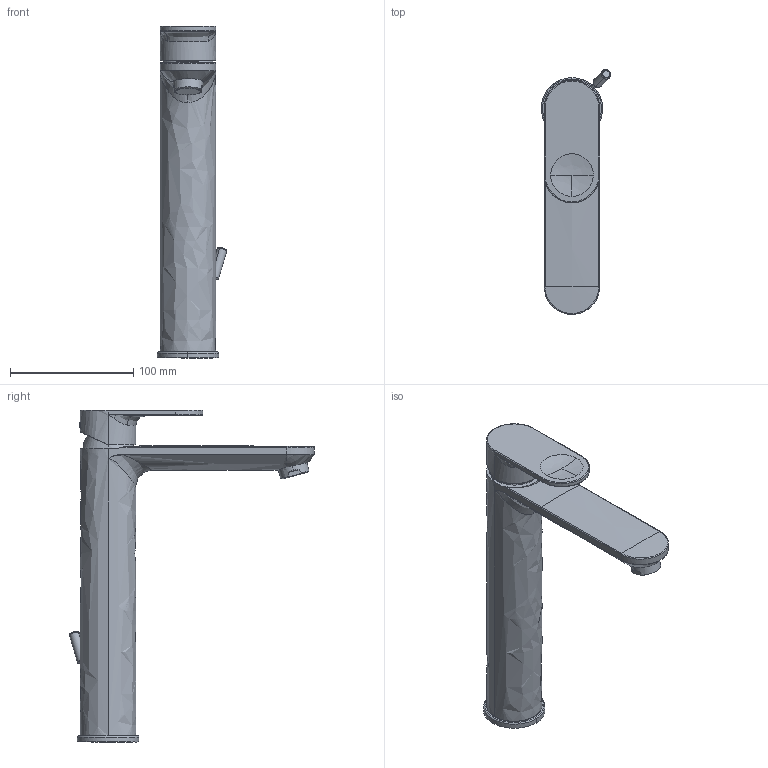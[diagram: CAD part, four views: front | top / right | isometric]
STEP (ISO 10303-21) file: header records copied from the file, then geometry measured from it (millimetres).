
FILE_DESCRIPTION(/* description */ (''),/* implementation_level */ '2;1');
FILE_NAME(/* name */ 'B31030001010_neu',/* time_stamp */ '2019-02-25T15:31:33+01:00',/* author */ (''),/* organization */ (''),/* preprocessor_version */ 'ST-DEVELOPER v15',/* originating_system */ '',/* authorisation */ '');
FILE_SCHEMA (('AUTOMOTIVE_DESIGN'));
Length unit declared in the file: millimetre
Products named in the file (1): Document
Bounding box: 56.29 x 198.82 x 269.45 mm (x, y, z)
Volume: 3738.6 mm3; surface area: 69836.1 mm2
Topology: 1 solids, 7 shells, 119 faces, 281 edges, 174 vertices
Faces by surface type: bspline 119
Entity records: 11369 total; most frequent: CARTESIAN_POINT 7942, B_SPLINE_CURVE_WITH_KNOTS 614, ORIENTED_EDGE 541, PCURVE 541, DEFINITIONAL_REPRESENTATION 541, SURFACE_CURVE 278, EDGE_CURVE 278, VERTEX_POINT 174
